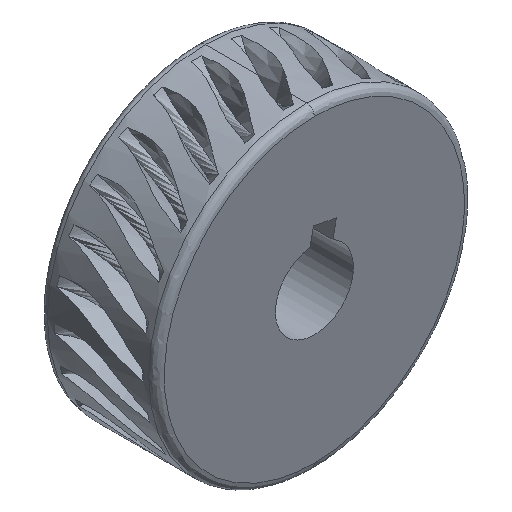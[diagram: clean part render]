
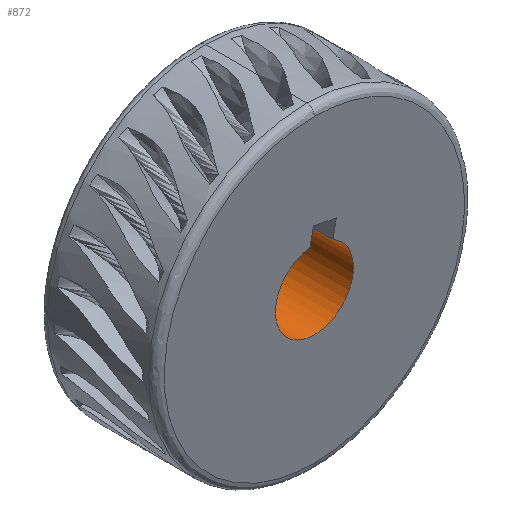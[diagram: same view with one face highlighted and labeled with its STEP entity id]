
A CAD part, isometric view. The second image highlights one B-rep face of the part: STEP entity #872.
In plain terms, the highlighted cylindrical face has radius 5 mm (diameter 10 mm), a partial arc.
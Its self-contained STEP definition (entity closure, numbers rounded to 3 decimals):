
#800 = EDGE_LOOP ( 'NONE', ( #801, #805, #807, #808 ) ) ;
#801 = ORIENTED_EDGE ( 'NONE', *, *, #802, .T. ) ;
#802 = EDGE_CURVE ( 'NONE', #803, #804, #7974, .T. ) ;
#803 = VERTEX_POINT ( 'NONE', #7969 ) ;
#804 = VERTEX_POINT ( 'NONE', #7968 ) ;
#805 = ORIENTED_EDGE ( 'NONE', *, *, #806, .T. ) ;
#806 = EDGE_CURVE ( 'NONE', #804, #838, #8047, .T. ) ;
#807 = ORIENTED_EDGE ( 'NONE', *, *, #820, .F. ) ;
#808 = ORIENTED_EDGE ( 'NONE', *, *, #809, .T. ) ;
#809 = EDGE_CURVE ( 'NONE', #818, #803, #8043, .T. ) ;
#818 = VERTEX_POINT ( 'NONE', #8023 ) ;
#820 = EDGE_CURVE ( 'NONE', #818, #838, #8022, .T. ) ;
#838 = VERTEX_POINT ( 'NONE', #7793 ) ;
#872 = ADVANCED_FACE ( 'NONE', ( #8107 ), #8104, .F. ) ;
#7793 = CARTESIAN_POINT ( 'NONE',  ( 9.354, -7.5, -20.032 ) ) ;
#7968 = CARTESIAN_POINT ( 'NONE',  ( 9.354, 7.5, -20.032 ) ) ;
#7969 = CARTESIAN_POINT ( 'NONE',  ( 12.299, 7.5, -20.604 ) ) ;
#7970 = DIRECTION ( 'NONE',  ( 0., 0., 1. ) ) ;
#7971 = DIRECTION ( 'NONE',  ( 0., 1., 0. ) ) ;
#7972 = CARTESIAN_POINT ( 'NONE',  ( 9.916, 7.5, -25. ) ) ;
#7973 = AXIS2_PLACEMENT_3D ( 'NONE', #7972, #7971, #7970 ) ;
#7974 = CIRCLE ( 'NONE', #7973, 5. ) ;
#8018 = DIRECTION ( 'NONE',  ( 0., 0., 1. ) ) ;
#8019 = DIRECTION ( 'NONE',  ( 0., 1., 0. ) ) ;
#8020 = CARTESIAN_POINT ( 'NONE',  ( 9.916, -7.5, -25. ) ) ;
#8021 = AXIS2_PLACEMENT_3D ( 'NONE', #8020, #8019, #8018 ) ;
#8022 = CIRCLE ( 'NONE', #8021, 5. ) ;
#8023 = CARTESIAN_POINT ( 'NONE',  ( 12.299, -7.5, -20.604 ) ) ;
#8040 = DIRECTION ( 'NONE',  ( 0., 1., 0. ) ) ;
#8041 = VECTOR ( 'NONE', #8040, 1000. ) ;
#8042 = CARTESIAN_POINT ( 'NONE',  ( 12.299, -7.5, -20.604 ) ) ;
#8043 = LINE ( 'NONE', #8042, #8041 ) ;
#8044 = DIRECTION ( 'NONE',  ( 0., -1., 0. ) ) ;
#8045 = VECTOR ( 'NONE', #8044, 1000. ) ;
#8046 = CARTESIAN_POINT ( 'NONE',  ( 9.354, -7.5, -20.032 ) ) ;
#8047 = LINE ( 'NONE', #8046, #8045 ) ;
#8101 = DIRECTION ( 'NONE',  ( 0., 0., 1. ) ) ;
#8102 = DIRECTION ( 'NONE',  ( 0., 1., 0. ) ) ;
#8103 = AXIS2_PLACEMENT_3D ( 'NONE', #8106, #8102, #8101 ) ;
#8104 = CYLINDRICAL_SURFACE ( 'NONE', #8103, 5. ) ;
#8106 = CARTESIAN_POINT ( 'NONE',  ( 9.916, -7.5, -25. ) ) ;
#8107 = FACE_OUTER_BOUND ( 'NONE', #800, .T. ) ;
